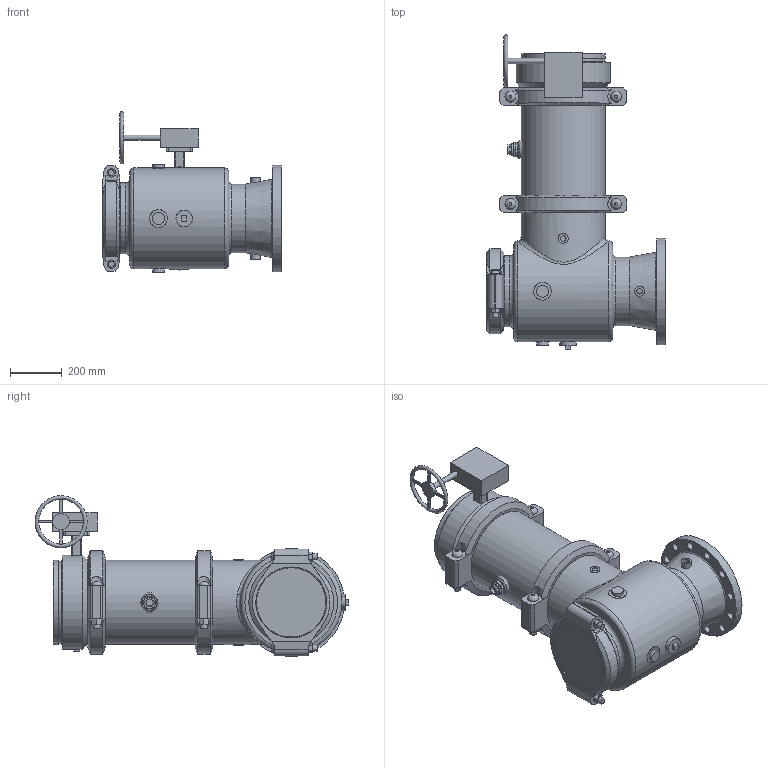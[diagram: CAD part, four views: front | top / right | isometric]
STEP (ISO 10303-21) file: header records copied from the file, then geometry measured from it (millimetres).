
FILE_DESCRIPTION(/* description */ ('VIC SVI PUMP DROP HORZ S/391 (OGSxFLG)','CAx-IF Rec.Pracs.---Representation and Presentation of Product Manufacturing Information (PMI)---4.0---2014-10-13'),/* implementation_level */ '2;1');
FILE_NAME(/* name */ 'C:\Users\Vjadhav\AppData\Roaming\Autodesk\ApplicationPlugins\Victaulic.Temp\A952\Victaulic_IPS_SVI_CL 150_Series 391 (OGSxFLG)_12.0x10.0 (300x250).stp',/* time_stamp */ '2021-04-09T17:55:13+05:00',/* author */ ('kkamble'),/* organization */ ('Victaulic'),/* preprocessor_version */ 'ST-DEVELOPER v17.2',/* originating_system */ 'Autodesk Inventor 2019',/* authorisation */ '');
FILE_SCHEMA (('AP242_MANAGED_MODEL_BASED_3D_ENGINEERING_MIM_LF { 1 0 10303 442 1 1 4 }'));
Length unit declared in the file: inch
Products named in the file (9): 391-12.0x10.0; 731D-12.0x10.0; 731D-12.0x10.0_1; 731D-12.0; 07-10.0; PIPE-12.0; 761-12.0; 077-12.0; 923-10.0x0.75
Assembly tree (9 placements, depth 3):
  391-12.0x10.0
    731D-12.0x10.0
      731D-12.0x10.0_1
      731D-12.0
      07-10.0
    PIPE-12.0
    761-12.0
    077-12.0  x2
    923-10.0x0.75
Bounding box: 685.8 x 1208.26 x 618.47 mm (x, y, z)
Volume: 45076811.4 mm3; surface area: 4318573.7 mm2
Topology: 8 solids, 15 shells, 451 faces, 1133 edges, 777 vertices
Faces by surface type: plane 249, cylinder 163, cone 19, torus 10, bspline 8, sphere 2
Full cylindrical faces by diameter (mm): 10.922 x4, 20.066 x1, 21.336 x5, 22.225 x4, 22.86 x1, 25.4 x8, 26.67 x1, 27.432 x4, 29.007 x12, 31.75 x1, 37.694 x2, 38.1 x4, 45.72 x3, 45.974 x2, 55.626 x1, 63.079 x1, 63.5 x1, 70.104 x1, 76.2 x1, 233.68 x1, 246.888 x1, 247.65 x1, 254 x1, 260.35 x1, 263.652 x1, 268.275 x2, 273.05 x5, 296.926 x1, 303.225 x1, 304.8 x1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
Entity records: 14295 total; most frequent: CARTESIAN_POINT 3703, DIRECTION 2150, ORIENTED_EDGE 1976, EDGE_CURVE 988, AXIS2_PLACEMENT_3D 842, VERTEX_POINT 679, EDGE_LOOP 507, LINE 466
